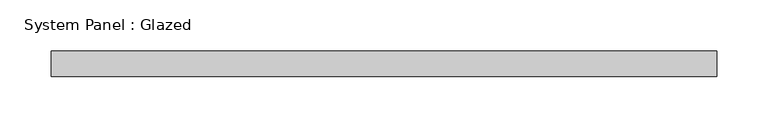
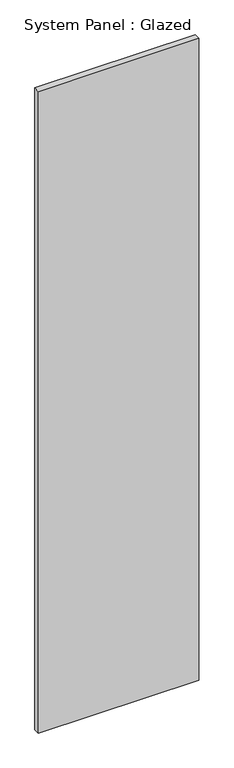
"""IFC4 building model written with IfcOpenShell, lengths in millimetres: plate geometry, System Panel : Glazed."""

from ifc_helpers import new_model, si_unit, origin, origin_with_axes, place, context, project, spatial, polyline, outline, extrude, source, transform, mapped, element, save


def system_panel_glazed_f32b0095(model_context):
    return source(origin(), model_context, "Body", "SweptSolid", [
        extrude(outline(polyline([(325.0, -49.5), (-325.0, -49.5), (-325.0, -24.5), (325.0, -24.5), (325.0, -49.5)])), origin_with_axes(), (0.0, 0.0, 1.0), 2750.0),
    ])


if __name__ == "__main__":
    model = new_model("IFC4")
    model_context = context("Model", 3, world=origin())
    ifc_project = project(units=[si_unit("LENGTHUNIT", "METRE", prefix="MILLI")], contexts=[model_context])
    site = spatial("IfcSite", under=ifc_project)
    building = spatial("IfcBuilding", under=site)
    placement = place(None, origin())
    system_panel_glazed_shape = system_panel_glazed_f32b0095(model_context)
    element("IfcPlate", 1, ObjectType="System Panel : Glazed", at=placement, inside=building, context=model_context, shape_type="MappedRepresentation", body=[
        mapped(system_panel_glazed_shape, transform((0.0, 0.0, 0.0), x_axis=(1.0, 0.0, 0.0), y_axis=(0.0, 1.0, 0.0), z_axis=(0.0, 0.0, 1.0))),
    ])
    save(model, "model.ifc")
